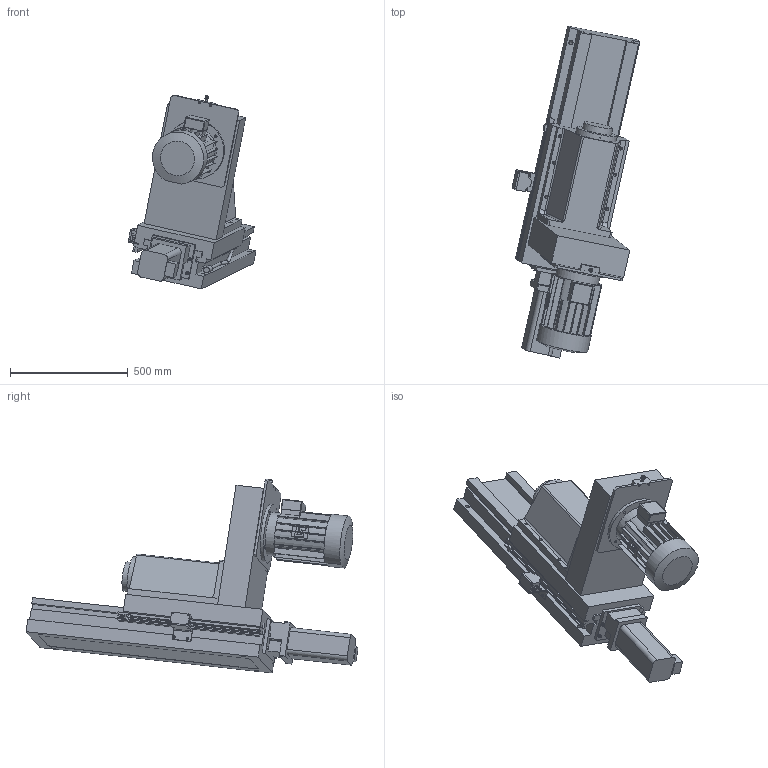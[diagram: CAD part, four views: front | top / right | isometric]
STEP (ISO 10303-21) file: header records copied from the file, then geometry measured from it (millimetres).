
FILE_DESCRIPTION((''),'2;1');
FILE_NAME('C:\VaultWork\Zeichnungen\Maßblätter\BF5\BF5-H300-me-400-EE.stp','2009-04-16T16:55:32',('Test'),(''),'Autodesk Inventor 2008','Autodesk Inventor 2008','');
FILE_SCHEMA(('AUTOMOTIVE_DESIGN { 1 0 10303 214 1 1 1 1 }'));
Length unit declared in the file: millimetre
Products named in the file (1): BF5-H300-me-400-EE
Bounding box: 543.26 x 1409.46 x 823.47 mm (x, y, z)
Volume: 106426734.9 mm3; surface area: 3504741.9 mm2
Topology: 25 solids, 25 shells, 828 faces, 2148 edges, 1405 vertices
Faces by surface type: plane 550, cylinder 152, bspline 68, cone 33, torus 19, sphere 6
Full cylindrical faces by diameter (mm): 3.242 x1, 3.8 x2, 4 x2, 4.917 x2, 5.9 x2, 6 x6, 6.6 x2, 8 x5, 9 x2, 9.98 x2, 10 x7, 12 x4, 13 x6, 16 x1, 20 x2, 25 x1, 42 x1, 54 x1, 125 x1, 168 x1, 175 x1, 184 x1, 185 x1, 250 x1
Entity records: 26238 total; most frequent: CARTESIAN_POINT 6150, DIRECTION 3834, ORIENTED_EDGE 3800, EDGE_CURVE 1900, VERTEX_POINT 1311, VECTOR 1284, LINE 1284, AXIS2_PLACEMENT_3D 1275
